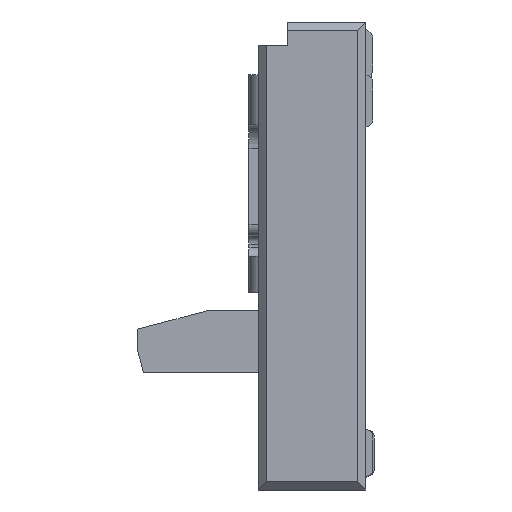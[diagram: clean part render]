
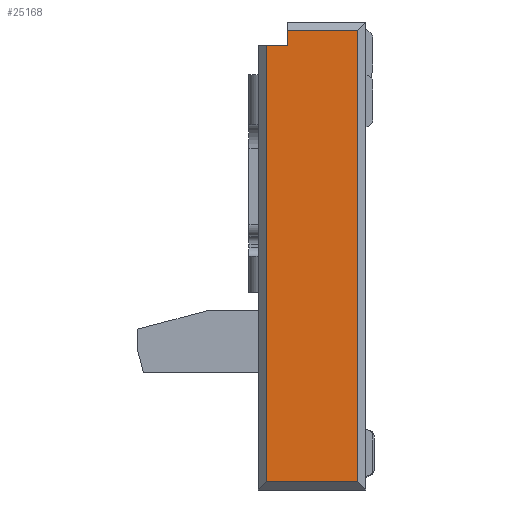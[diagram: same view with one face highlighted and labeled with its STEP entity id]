
A CAD part, left-side view. The second image highlights one B-rep face of the part: STEP entity #25168.
In plain terms, the highlighted planar face has unit normal (-1, 0, 0).
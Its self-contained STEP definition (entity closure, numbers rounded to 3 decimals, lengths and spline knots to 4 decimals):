
#5940 = CARTESIAN_POINT ( 'NONE',  ( -4.25, 0.05, -3.23 ) ) ;
#6184 = FACE_OUTER_BOUND ( 'NONE', #25138, .T. ) ;
#6204 = CARTESIAN_POINT ( 'NONE',  ( -4.25, 0.9, 0.7 ) ) ;
#6272 = DIRECTION ( 'NONE',  ( 0., 0., 1. ) ) ;
#6273 = DIRECTION ( 'NONE',  ( -1., 0., 0. ) ) ;
#6281 = AXIS2_PLACEMENT_3D ( 'NONE', #6204, #6273, #6272 ) ;
#6301 = PLANE ( 'NONE',  #6281 ) ;
#6342 = DIRECTION ( 'NONE',  ( 0., 0., 1. ) ) ;
#6343 = VECTOR ( 'NONE', #6342, 1000. ) ;
#6344 = CARTESIAN_POINT ( 'NONE',  ( -4.25, 0.05, 0.7 ) ) ;
#6354 = LINE ( 'NONE', #6344, #6343 ) ;
#10612 = CARTESIAN_POINT ( 'NONE',  ( -4.25, 0.65, 0.5 ) ) ;
#11299 = DIRECTION ( 'NONE',  ( 0., 0., -1. ) ) ;
#11300 = VECTOR ( 'NONE', #11299, 1000. ) ;
#11305 = CARTESIAN_POINT ( 'NONE',  ( -4.25, 0.65, 0.7 ) ) ;
#11311 = LINE ( 'NONE', #11305, #11300 ) ;
#13996 = CARTESIAN_POINT ( 'NONE',  ( -4.25, 0.9, -3.23 ) ) ;
#13997 = LINE ( 'NONE', #13996, #14032 ) ;
#14031 = DIRECTION ( 'NONE',  ( 0., -1., 0. ) ) ;
#14032 = VECTOR ( 'NONE', #14031, 1000. ) ;
#14130 = CARTESIAN_POINT ( 'NONE',  ( -4.25, 0.83, 0.5 ) ) ;
#14413 = DIRECTION ( 'NONE',  ( 0., 0., -1. ) ) ;
#14414 = VECTOR ( 'NONE', #14413, 1000. ) ;
#14421 = CARTESIAN_POINT ( 'NONE',  ( -4.25, 0.83, 0.7 ) ) ;
#14422 = LINE ( 'NONE', #14421, #14414 ) ;
#14428 = CARTESIAN_POINT ( 'NONE',  ( -4.25, 0.83, -3.23 ) ) ;
#25048 = VERTEX_POINT ( 'NONE', #5940 ) ;
#25138 = EDGE_LOOP ( 'NONE', ( #25333, #25338, #25280, #25183, #38562, #38380 ) ) ;
#25168 = ADVANCED_FACE ( 'NONE', ( #6184 ), #6301, .T. ) ;
#25183 = ORIENTED_EDGE ( 'NONE', *, *, #55798, .F. ) ;
#25188 = EDGE_CURVE ( 'NONE', #25048, #31485, #6354, .T. ) ;
#25280 = ORIENTED_EDGE ( 'NONE', *, *, #36246, .T. ) ;
#25333 = ORIENTED_EDGE ( 'NONE', *, *, #25188, .T. ) ;
#25338 = ORIENTED_EDGE ( 'NONE', *, *, #31513, .T. ) ;
#31485 = VERTEX_POINT ( 'NONE', #58007 ) ;
#31487 = VERTEX_POINT ( 'NONE', #57989 ) ;
#31513 = EDGE_CURVE ( 'NONE', #31485, #31487, #58164, .T. ) ;
#32991 = DIRECTION ( 'NONE',  ( 0., -1., 0. ) ) ;
#32992 = VECTOR ( 'NONE', #32991, 1000. ) ;
#32993 = CARTESIAN_POINT ( 'NONE',  ( -4.25, 0.9, 0.5 ) ) ;
#33006 = LINE ( 'NONE', #32993, #32992 ) ;
#36006 = VERTEX_POINT ( 'NONE', #10612 ) ;
#36246 = EDGE_CURVE ( 'NONE', #31487, #36006, #11311, .T. ) ;
#38380 = ORIENTED_EDGE ( 'NONE', *, *, #38414, .T. ) ;
#38414 = EDGE_CURVE ( 'NONE', #38635, #25048, #13997, .T. ) ;
#38457 = VERTEX_POINT ( 'NONE', #14130 ) ;
#38562 = ORIENTED_EDGE ( 'NONE', *, *, #38630, .T. ) ;
#38630 = EDGE_CURVE ( 'NONE', #38457, #38635, #14422, .T. ) ;
#38635 = VERTEX_POINT ( 'NONE', #14428 ) ;
#55798 = EDGE_CURVE ( 'NONE', #38457, #36006, #33006, .T. ) ;
#57989 = CARTESIAN_POINT ( 'NONE',  ( -4.25, 0.65, 0.63 ) ) ;
#58007 = CARTESIAN_POINT ( 'NONE',  ( -4.25, 0.05, 0.63 ) ) ;
#58131 = DIRECTION ( 'NONE',  ( 0., 1., 0. ) ) ;
#58132 = VECTOR ( 'NONE', #58131, 1000. ) ;
#58133 = CARTESIAN_POINT ( 'NONE',  ( -4.25, 0.9, 0.63 ) ) ;
#58164 = LINE ( 'NONE', #58133, #58132 ) ;
